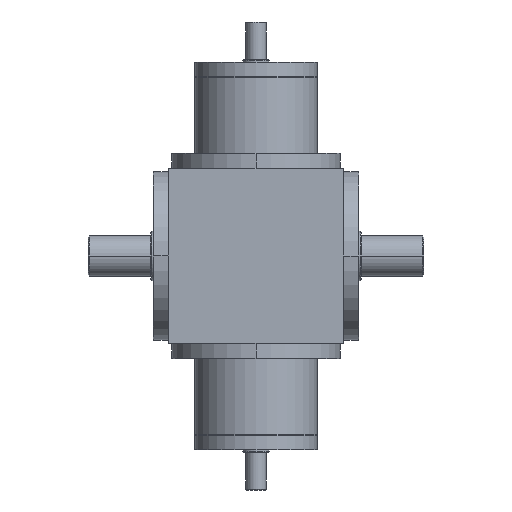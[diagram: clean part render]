
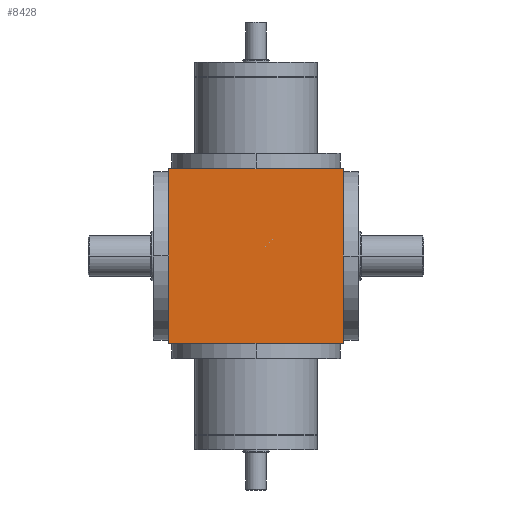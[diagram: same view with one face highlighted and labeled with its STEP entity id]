
A CAD part, front view. The second image highlights one B-rep face of the part: STEP entity #8428.
In plain terms, the highlighted planar face has unit normal (0, -1, 0).
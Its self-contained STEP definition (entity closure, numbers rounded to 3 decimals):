
#1519 = CARTESIAN_POINT ( 'NONE',  ( 70., -70., -69.9 ) ) ;
#1611 = CARTESIAN_POINT ( 'NONE',  ( -69.9, -70., -69.9 ) ) ;
#2398 = CARTESIAN_POINT ( 'NONE',  ( -69.9, -70., 69.9 ) ) ;
#3434 = LINE ( 'NONE', #1519, #22440 ) ;
#3650 = CARTESIAN_POINT ( 'NONE',  ( 69.9, -70., 70. ) ) ;
#3835 = LINE ( 'NONE', #3650, #16395 ) ;
#3948 = VECTOR ( 'NONE', #17369, 1000. ) ;
#4248 = EDGE_CURVE ( 'NONE', #13387, #8881, #18964, .T. ) ;
#8428 = ADVANCED_FACE ( 'NONE', ( #13182 ), #15415, .F. ) ;
#8881 = VERTEX_POINT ( 'NONE', #1611 ) ;
#9239 = CARTESIAN_POINT ( 'NONE',  ( 70., -70., 70. ) ) ;
#9654 = EDGE_CURVE ( 'NONE', #12404, #13387, #21837, .T. ) ;
#10041 = EDGE_LOOP ( 'NONE', ( #17236, #21607, #13267, #17955 ) ) ;
#11805 = DIRECTION ( 'NONE',  ( 0., 0., 1. ) ) ;
#12404 = VERTEX_POINT ( 'NONE', #23758 ) ;
#13182 = FACE_OUTER_BOUND ( 'NONE', #10041, .T. ) ;
#13267 = ORIENTED_EDGE ( 'NONE', *, *, #9654, .T. ) ;
#13387 = VERTEX_POINT ( 'NONE', #2398 ) ;
#15415 = PLANE ( 'NONE',  #24151 ) ;
#15499 = DIRECTION ( 'NONE',  ( 0., 1., 0. ) ) ;
#16395 = VECTOR ( 'NONE', #11805, 1000. ) ;
#16617 = VERTEX_POINT ( 'NONE', #19528 ) ;
#16909 = EDGE_CURVE ( 'NONE', #16617, #12404, #3835, .T. ) ;
#17236 = ORIENTED_EDGE ( 'NONE', *, *, #19104, .T. ) ;
#17369 = DIRECTION ( 'NONE',  ( 0., 0., -1. ) ) ;
#17456 = CARTESIAN_POINT ( 'NONE',  ( -69.9, -70., 70. ) ) ;
#17955 = ORIENTED_EDGE ( 'NONE', *, *, #4248, .T. ) ;
#18964 = LINE ( 'NONE', #17456, #3948 ) ;
#19104 = EDGE_CURVE ( 'NONE', #8881, #16617, #3434, .T. ) ;
#19528 = CARTESIAN_POINT ( 'NONE',  ( 69.9, -70., -69.9 ) ) ;
#21160 = DIRECTION ( 'NONE',  ( 0., 0., 1. ) ) ;
#21607 = ORIENTED_EDGE ( 'NONE', *, *, #16909, .T. ) ;
#21837 = LINE ( 'NONE', #22682, #22460 ) ;
#22440 = VECTOR ( 'NONE', #24848, 1000. ) ;
#22460 = VECTOR ( 'NONE', #24666, 1000. ) ;
#22682 = CARTESIAN_POINT ( 'NONE',  ( -70., -70., 69.9 ) ) ;
#23758 = CARTESIAN_POINT ( 'NONE',  ( 69.9, -70., 69.9 ) ) ;
#24151 = AXIS2_PLACEMENT_3D ( 'NONE', #9239, #15499, #21160 ) ;
#24666 = DIRECTION ( 'NONE',  ( -1., 0., 0. ) ) ;
#24848 = DIRECTION ( 'NONE',  ( 1., 0., 0. ) ) ;
